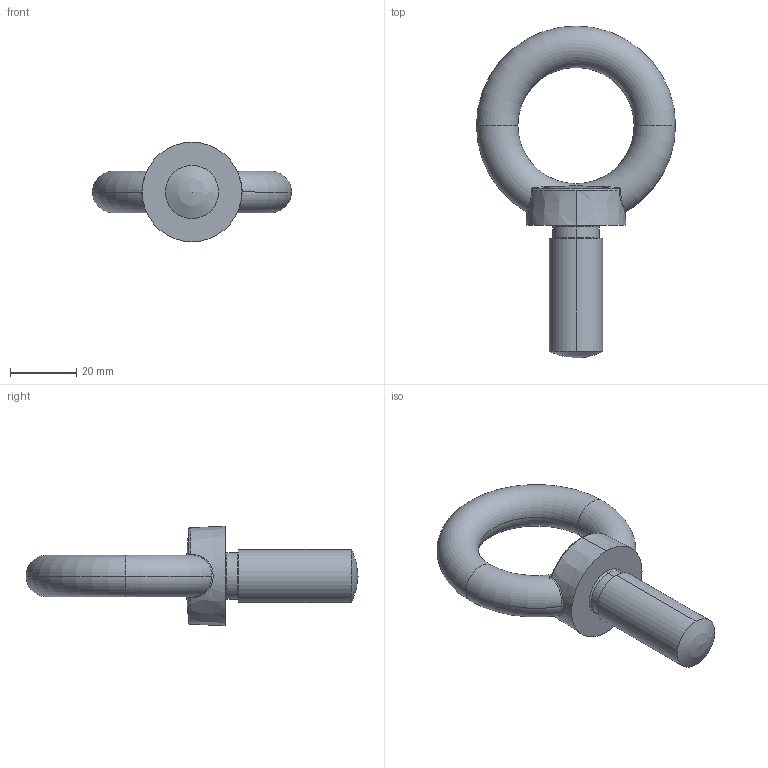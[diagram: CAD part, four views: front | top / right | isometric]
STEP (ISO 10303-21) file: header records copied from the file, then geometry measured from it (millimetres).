
FILE_DESCRIPTION (( 'STEP AP203' ), '1' );
FILE_NAME ('EB-901(S)-1640.STEP', '2013-07-03T08:55:08', ( 'SDS' ), ( 'SDS' ), 'SwSTEP 2.0', 'SolidWorks 2002296', '' );
FILE_SCHEMA (( 'CONFIG_CONTROL_DESIGN' ));
Length unit declared in the file: millimetre
Products named in the file (1): EB-901(S)-1640
Bounding box: 60 x 100 x 30 mm (x, y, z)
Volume: 30665.8 mm3; surface area: 8986.6 mm2
Topology: 1 solids, 1 shells, 31 faces, 72 edges, 42 vertices
Faces by surface type: torus 11, bspline 8, cone 5, cylinder 4, plane 2, sphere 1
Entity records: 8180 total; most frequent: CARTESIAN_POINT 7440, DIRECTION 141, ORIENTED_EDGE 138, EDGE_CURVE 69, AXIS2_PLACEMENT_3D 67, CIRCLE 43, VERTEX_POINT 40, EDGE_LOOP 33
